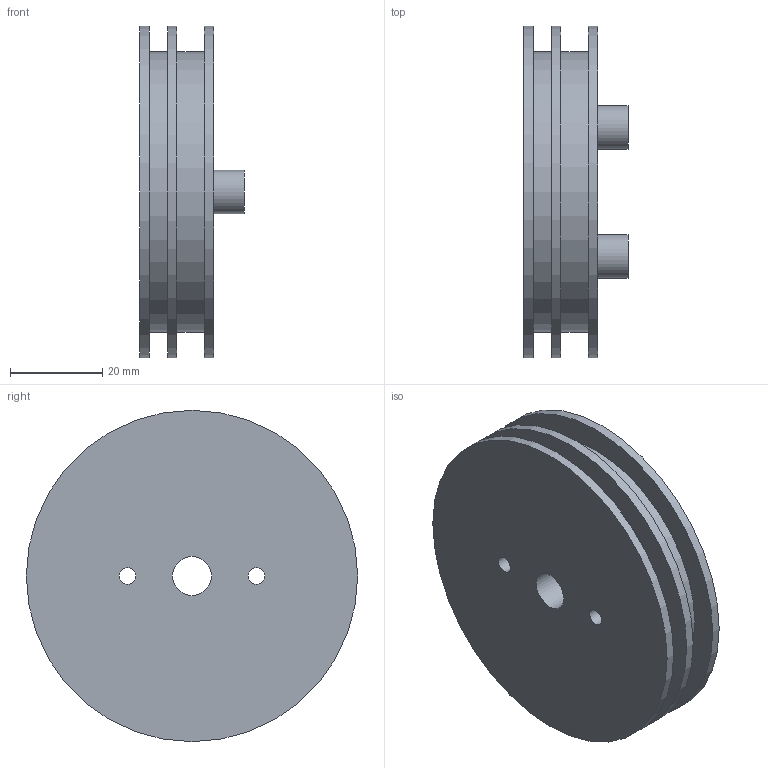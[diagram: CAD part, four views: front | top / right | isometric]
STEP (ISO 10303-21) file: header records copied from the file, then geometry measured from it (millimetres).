
FILE_DESCRIPTION(('Open CASCADE Model'),'2;1');
FILE_NAME('Open CASCADE Shape Model','2026-11-04T09:19:23',('Author'),( 'Open CASCADE'),'Open CASCADE STEP processor 7.8','Open CASCADE 7.8' ,'Unknown');
FILE_SCHEMA(('AUTOMOTIVE_DESIGN { 1 0 10303 214 1 1 1 1 }'));
Length unit declared in the file: millimetre
Products named in the file (1): Open CASCADE STEP translator 7.8 1
Bounding box: 22.6 x 72 x 72 mm (x, y, z)
Volume: 53121.6 mm3; surface area: 17328.4 mm2
Topology: 1 solids, 3 shells, 24 faces, 36 edges, 24 vertices
Faces by surface type: cylinder 12, plane 12
Full cylindrical faces by diameter (mm): 2.7 x2, 3.6 x2, 8.5 x1, 9.4 x2, 61 x2, 72 x3
Entity records: 1030 total; most frequent: DIRECTION 182, CARTESIAN_POINT 157, ORIENTED_EDGE 72, PCURVE 72, DEFINITIONAL_REPRESENTATION 72, LINE 60, VECTOR 60, AXIS2_PLACEMENT_3D 49
